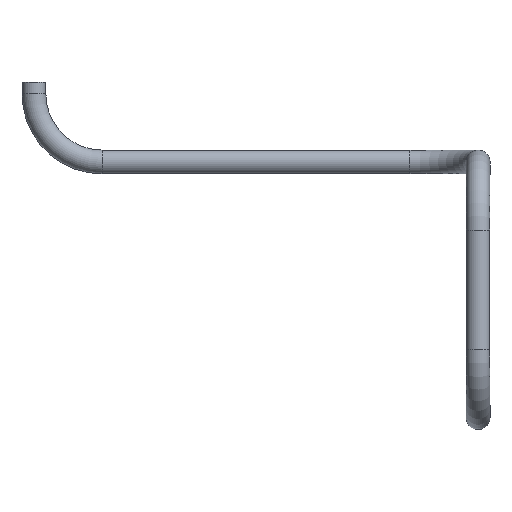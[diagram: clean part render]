
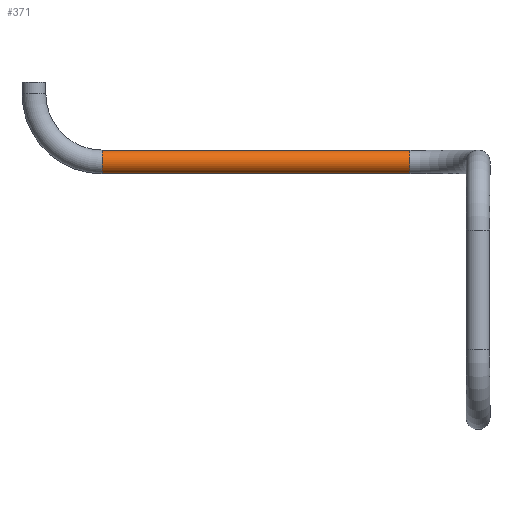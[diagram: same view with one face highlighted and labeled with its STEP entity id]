
A CAD part, left-side view. The second image highlights one B-rep face of the part: STEP entity #371.
In plain terms, the highlighted cylindrical face has radius 0.525 mm (diameter 1.05 mm), a full revolution.
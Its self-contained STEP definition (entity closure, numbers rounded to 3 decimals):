
#305 = TOROIDAL_SURFACE('',#306,3.,0.525);
#306 = AXIS2_PLACEMENT_3D('',#307,#308,#309);
#307 = CARTESIAN_POINT('',(0.81,-25.99,-9.5));
#308 = DIRECTION('',(-0.,0.,1.));
#309 = DIRECTION('',(0.,-1.,0.));
#322 = VERTEX_POINT('',#323);
#323 = CARTESIAN_POINT('',(3.81,-25.99,-8.975));
#344 = EDGE_CURVE('',#322,#322,#345,.T.);
#345 = SURFACE_CURVE('',#346,(#351,#358),.PCURVE_S1.);
#346 = CIRCLE('',#347,0.525);
#347 = AXIS2_PLACEMENT_3D('',#348,#349,#350);
#348 = CARTESIAN_POINT('',(3.81,-25.99,-9.5));
#349 = DIRECTION('',(0.,-1.,0.));
#350 = DIRECTION('',(1.,0.,0.));
#351 = PCURVE('',#305,#352);
#352 = DEFINITIONAL_REPRESENTATION('',(#353),#357);
#353 = LINE('',#354,#355);
#354 = CARTESIAN_POINT('',(1.571,0.));
#355 = VECTOR('',#356,1.);
#356 = DIRECTION('',(0.,1.));
#357 = ( GEOMETRIC_REPRESENTATION_CONTEXT(2) 
PARAMETRIC_REPRESENTATION_CONTEXT() REPRESENTATION_CONTEXT('2D SPACE',''
  ) );
#358 = PCURVE('',#359,#364);
#359 = CYLINDRICAL_SURFACE('',#360,0.525);
#360 = AXIS2_PLACEMENT_3D('',#361,#362,#363);
#361 = CARTESIAN_POINT('',(3.81,-25.99,-9.5));
#362 = DIRECTION('',(0.,1.,0.));
#363 = DIRECTION('',(0.,-0.,1.));
#364 = DEFINITIONAL_REPRESENTATION('',(#365),#368);
#365 = B_SPLINE_CURVE_WITH_KNOTS('',1,(#366,#367),.UNSPECIFIED.,.F.,.F.,
  (2,2),(1.571,7.854),.PIECEWISE_BEZIER_KNOTS.);
#366 = CARTESIAN_POINT('',(6.283,0.));
#367 = CARTESIAN_POINT('',(0.,0.));
#368 = ( GEOMETRIC_REPRESENTATION_CONTEXT(2) 
PARAMETRIC_REPRESENTATION_CONTEXT() REPRESENTATION_CONTEXT('2D SPACE',''
  ) );
#371 = ADVANCED_FACE('',(#372),#359,.T.);
#372 = FACE_BOUND('',#373,.T.);
#373 = EDGE_LOOP('',(#374,#396,#422,#423));
#374 = ORIENTED_EDGE('',*,*,#375,.T.);
#375 = EDGE_CURVE('',#322,#376,#378,.T.);
#376 = VERTEX_POINT('',#377);
#377 = CARTESIAN_POINT('',(3.81,-12.428,-8.975));
#378 = SEAM_CURVE('',#379,(#383,#389),.PCURVE_S1.);
#379 = LINE('',#380,#381);
#380 = CARTESIAN_POINT('',(3.81,-25.99,-8.975));
#381 = VECTOR('',#382,1.);
#382 = DIRECTION('',(0.,1.,0.));
#383 = PCURVE('',#359,#384);
#384 = DEFINITIONAL_REPRESENTATION('',(#385),#388);
#385 = B_SPLINE_CURVE_WITH_KNOTS('',1,(#386,#387),.UNSPECIFIED.,.F.,.F.,
  (2,2),(0.,13.562),.PIECEWISE_BEZIER_KNOTS.);
#386 = CARTESIAN_POINT('',(6.283,0.));
#387 = CARTESIAN_POINT('',(6.283,13.562));
#388 = ( GEOMETRIC_REPRESENTATION_CONTEXT(2) 
PARAMETRIC_REPRESENTATION_CONTEXT() REPRESENTATION_CONTEXT('2D SPACE',''
  ) );
#389 = PCURVE('',#359,#390);
#390 = DEFINITIONAL_REPRESENTATION('',(#391),#395);
#391 = LINE('',#392,#393);
#392 = CARTESIAN_POINT('',(0.,0.));
#393 = VECTOR('',#394,1.);
#394 = DIRECTION('',(0.,1.));
#395 = ( GEOMETRIC_REPRESENTATION_CONTEXT(2) 
PARAMETRIC_REPRESENTATION_CONTEXT() REPRESENTATION_CONTEXT('2D SPACE',''
  ) );
#396 = ORIENTED_EDGE('',*,*,#397,.F.);
#397 = EDGE_CURVE('',#376,#376,#398,.T.);
#398 = SURFACE_CURVE('',#399,(#404,#411),.PCURVE_S1.);
#399 = CIRCLE('',#400,0.525);
#400 = AXIS2_PLACEMENT_3D('',#401,#402,#403);
#401 = CARTESIAN_POINT('',(3.81,-12.428,-9.5));
#402 = DIRECTION('',(0.,1.,0.));
#403 = DIRECTION('',(0.,-0.,1.));
#404 = PCURVE('',#359,#405);
#405 = DEFINITIONAL_REPRESENTATION('',(#406),#410);
#406 = LINE('',#407,#408);
#407 = CARTESIAN_POINT('',(0.,13.562));
#408 = VECTOR('',#409,1.);
#409 = DIRECTION('',(1.,0.));
#410 = ( GEOMETRIC_REPRESENTATION_CONTEXT(2) 
PARAMETRIC_REPRESENTATION_CONTEXT() REPRESENTATION_CONTEXT('2D SPACE',''
  ) );
#411 = PCURVE('',#412,#417);
#412 = TOROIDAL_SURFACE('',#413,3.,0.525);
#413 = AXIS2_PLACEMENT_3D('',#414,#415,#416);
#414 = CARTESIAN_POINT('',(3.81,-12.428,-6.5));
#415 = DIRECTION('',(1.,-0.,0.));
#416 = DIRECTION('',(0.,0.,-1.));
#417 = DEFINITIONAL_REPRESENTATION('',(#418),#421);
#418 = B_SPLINE_CURVE_WITH_KNOTS('',1,(#419,#420),.UNSPECIFIED.,.F.,.F.,
  (2,2),(0.,6.283),.PIECEWISE_BEZIER_KNOTS.);
#419 = CARTESIAN_POINT('',(0.,9.425));
#420 = CARTESIAN_POINT('',(0.,3.142));
#421 = ( GEOMETRIC_REPRESENTATION_CONTEXT(2) 
PARAMETRIC_REPRESENTATION_CONTEXT() REPRESENTATION_CONTEXT('2D SPACE',''
  ) );
#422 = ORIENTED_EDGE('',*,*,#375,.F.);
#423 = ORIENTED_EDGE('',*,*,#344,.F.);
